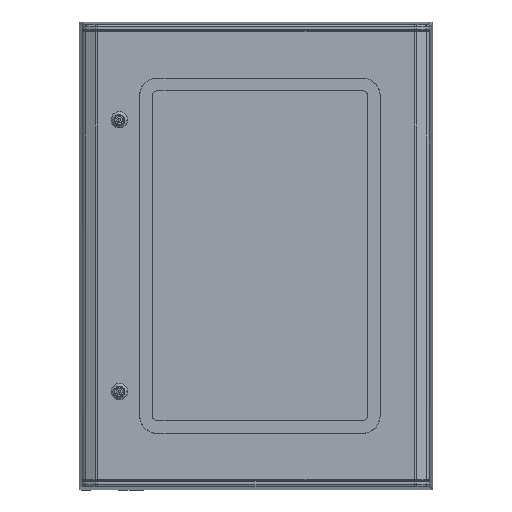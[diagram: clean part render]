
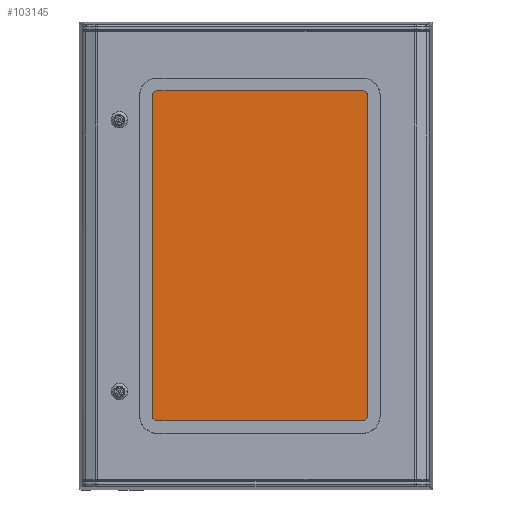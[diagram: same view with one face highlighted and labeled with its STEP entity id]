
A CAD part, top view. The second image highlights one B-rep face of the part: STEP entity #103145.
In plain terms, the highlighted planar face has unit normal (0, 0, 1).
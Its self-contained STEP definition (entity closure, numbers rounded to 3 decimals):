
#927 = CARTESIAN_POINT ( 'NONE',  ( -187.5, 279.5, 3. ) ) ;
#2445 = AXIS2_PLACEMENT_3D ( 'NONE', #3178, #109213, #18442 ) ;
#3178 = CARTESIAN_POINT ( 'NONE',  ( 179.5, 279.5, 3. ) ) ;
#6933 = AXIS2_PLACEMENT_3D ( 'NONE', #125143, #34327, #140369 ) ;
#7549 = LINE ( 'NONE', #141894, #88058 ) ;
#13089 = FACE_OUTER_BOUND ( 'NONE', #31751, .T. ) ;
#13440 = VECTOR ( 'NONE', #193892, 1000. ) ;
#13747 = EDGE_CURVE ( 'NONE', #193736, #54817, #137649, .T. ) ;
#18142 = LINE ( 'NONE', #147924, #13440 ) ;
#18442 = DIRECTION ( 'NONE',  ( -1., 0., 0. ) ) ;
#19464 = ORIENTED_EDGE ( 'NONE', *, *, #108897, .T. ) ;
#29484 = CARTESIAN_POINT ( 'NONE',  ( -179.5, 287.5, 3. ) ) ;
#31751 = EDGE_LOOP ( 'NONE', ( #132718, #181958, #125954, #53569, #76128, #85301, #19464, #126921 ) ) ;
#34327 = DIRECTION ( 'NONE',  ( 0., 0., 1. ) ) ;
#35812 = DIRECTION ( 'NONE',  ( 0., 1., 0. ) ) ;
#39370 = CIRCLE ( 'NONE', #187896, 8. ) ;
#41984 = AXIS2_PLACEMENT_3D ( 'NONE', #157313, #157059, #156919 ) ;
#48544 = CIRCLE ( 'NONE', #2445, 8. ) ;
#52093 = DIRECTION ( 'NONE',  ( 1., 0., 0. ) ) ;
#53569 = ORIENTED_EDGE ( 'NONE', *, *, #13747, .T. ) ;
#54817 = VERTEX_POINT ( 'NONE', #927 ) ;
#57969 = EDGE_CURVE ( 'NONE', #185522, #151935, #39370, .T. ) ;
#63726 = VECTOR ( 'NONE', #52093, 1000. ) ;
#71772 = CARTESIAN_POINT ( 'NONE',  ( 187.5, -279.5, 3. ) ) ;
#73361 = DIRECTION ( 'NONE',  ( 0., 0., 1. ) ) ;
#74281 = LINE ( 'NONE', #29484, #159815 ) ;
#74563 = EDGE_CURVE ( 'NONE', #54817, #185522, #18142, .T. ) ;
#76128 = ORIENTED_EDGE ( 'NONE', *, *, #74563, .T. ) ;
#78303 = DIRECTION ( 'NONE',  ( -1., 0., 0. ) ) ;
#85301 = ORIENTED_EDGE ( 'NONE', *, *, #57969, .T. ) ;
#85841 = EDGE_CURVE ( 'NONE', #158244, #125131, #48544, .T. ) ;
#88058 = VECTOR ( 'NONE', #35812, 1000. ) ;
#91485 = AXIS2_PLACEMENT_3D ( 'NONE', #168792, #169451, #78303 ) ;
#103145 = ADVANCED_FACE ( 'NONE', ( #13089 ), #154044, .F. ) ;
#104182 = LINE ( 'NONE', #188327, #63726 ) ;
#108897 = EDGE_CURVE ( 'NONE', #151935, #127242, #104182, .T. ) ;
#109213 = DIRECTION ( 'NONE',  ( 0., 0., 1. ) ) ;
#110558 = CARTESIAN_POINT ( 'NONE',  ( -179.5, 287.5, 3. ) ) ;
#111225 = CARTESIAN_POINT ( 'NONE',  ( -187.5, -279.5, 3. ) ) ;
#120257 = DIRECTION ( 'NONE',  ( -1., 0., 0. ) ) ;
#125131 = VERTEX_POINT ( 'NONE', #183762 ) ;
#125143 = CARTESIAN_POINT ( 'NONE',  ( 179.5, -279.5, 3. ) ) ;
#125954 = ORIENTED_EDGE ( 'NONE', *, *, #137395, .T. ) ;
#126393 = EDGE_CURVE ( 'NONE', #127242, #193146, #156897, .T. ) ;
#126921 = ORIENTED_EDGE ( 'NONE', *, *, #126393, .T. ) ;
#127242 = VERTEX_POINT ( 'NONE', #194281 ) ;
#132718 = ORIENTED_EDGE ( 'NONE', *, *, #187579, .T. ) ;
#137395 = EDGE_CURVE ( 'NONE', #125131, #193736, #74281, .T. ) ;
#137649 = CIRCLE ( 'NONE', #41984, 8. ) ;
#140369 = DIRECTION ( 'NONE',  ( -1., 0., 0. ) ) ;
#141894 = CARTESIAN_POINT ( 'NONE',  ( 187.5, 279.5, 3. ) ) ;
#144118 = CARTESIAN_POINT ( 'NONE',  ( -179.5, -287.5, 3. ) ) ;
#145919 = CARTESIAN_POINT ( 'NONE',  ( 187.5, 279.5, 3. ) ) ;
#147924 = CARTESIAN_POINT ( 'NONE',  ( -187.5, 279.5, 3. ) ) ;
#151935 = VERTEX_POINT ( 'NONE', #144118 ) ;
#154044 = PLANE ( 'NONE',  #91485 ) ;
#156897 = CIRCLE ( 'NONE', #6933, 8. ) ;
#156919 = DIRECTION ( 'NONE',  ( -1., 0., 0. ) ) ;
#157059 = DIRECTION ( 'NONE',  ( 0., 0., 1. ) ) ;
#157313 = CARTESIAN_POINT ( 'NONE',  ( -179.5, 279.5, 3. ) ) ;
#158244 = VERTEX_POINT ( 'NONE', #145919 ) ;
#159815 = VECTOR ( 'NONE', #120257, 1000. ) ;
#164428 = CARTESIAN_POINT ( 'NONE',  ( -179.5, -279.5, 3. ) ) ;
#168792 = CARTESIAN_POINT ( 'NONE',  ( -179.5, 279.5, 3. ) ) ;
#169451 = DIRECTION ( 'NONE',  ( 0., 0., -1. ) ) ;
#179738 = DIRECTION ( 'NONE',  ( -1., 0., 0. ) ) ;
#181958 = ORIENTED_EDGE ( 'NONE', *, *, #85841, .T. ) ;
#183762 = CARTESIAN_POINT ( 'NONE',  ( 179.5, 287.5, 3. ) ) ;
#185522 = VERTEX_POINT ( 'NONE', #111225 ) ;
#187579 = EDGE_CURVE ( 'NONE', #193146, #158244, #7549, .T. ) ;
#187896 = AXIS2_PLACEMENT_3D ( 'NONE', #164428, #73361, #179738 ) ;
#188327 = CARTESIAN_POINT ( 'NONE',  ( -179.5, -287.5, 3. ) ) ;
#193146 = VERTEX_POINT ( 'NONE', #71772 ) ;
#193736 = VERTEX_POINT ( 'NONE', #110558 ) ;
#193892 = DIRECTION ( 'NONE',  ( 0., -1., 0. ) ) ;
#194281 = CARTESIAN_POINT ( 'NONE',  ( 179.5, -287.5, 3. ) ) ;
